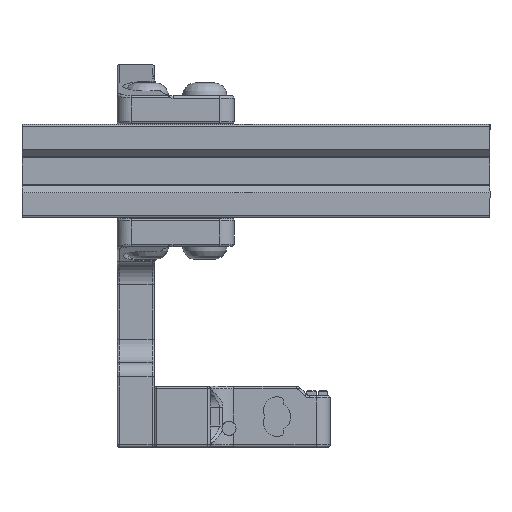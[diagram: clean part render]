
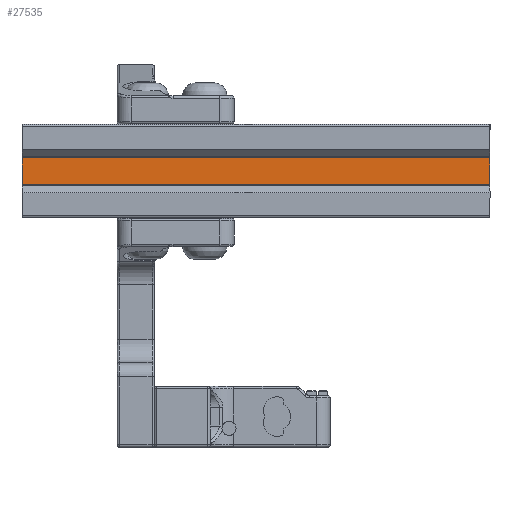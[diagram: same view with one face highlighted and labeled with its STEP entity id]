
A CAD part, front view. The second image highlights one B-rep face of the part: STEP entity #27535.
In plain terms, the highlighted planar face has unit normal (0, -1, 0).
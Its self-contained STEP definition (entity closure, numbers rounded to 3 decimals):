
#2522=PLANE('',#30477);
#4208=LINE('',#104933,#6015);
#4328=LINE('',#105184,#6135);
#4329=LINE('',#105187,#6136);
#4330=LINE('',#105188,#6137);
#6015=VECTOR('',#37172,10.);
#6135=VECTOR('',#37410,10.);
#6136=VECTOR('',#37413,10.);
#6137=VECTOR('',#37414,10.);
#8506=FACE_OUTER_BOUND('',#10220,.T.);
#10220=EDGE_LOOP('',(#25797,#25798,#25799,#25800));
#13622=VERTEX_POINT('',#104930);
#13623=VERTEX_POINT('',#104932);
#13695=VERTEX_POINT('',#105182);
#13696=VERTEX_POINT('',#105186);
#17622=EDGE_CURVE('',#13622,#13623,#4208,.T.);
#17748=EDGE_CURVE('',#13622,#13695,#4328,.T.);
#17749=EDGE_CURVE('',#13696,#13695,#4329,.F.);
#17750=EDGE_CURVE('',#13623,#13696,#4330,.T.);
#25797=ORIENTED_EDGE('',*,*,#17622,.F.);
#25798=ORIENTED_EDGE('',*,*,#17748,.T.);
#25799=ORIENTED_EDGE('',*,*,#17749,.F.);
#25800=ORIENTED_EDGE('',*,*,#17750,.F.);
#27535=ADVANCED_FACE('',(#8506),#2522,.T.);
#30477=AXIS2_PLACEMENT_3D('',#105185,#37411,#37412);
#37172=DIRECTION('',(0.,0.,1.));
#37410=DIRECTION('',(1.,0.,0.));
#37411=DIRECTION('center_axis',(0.,-1.,0.));
#37412=DIRECTION('ref_axis',(0.,0.,-1.));
#37413=DIRECTION('',(0.,0.,1.));
#37414=DIRECTION('',(1.,0.,0.));
#104930=CARTESIAN_POINT('',(-107.175,-113.923,-93.239));
#104932=CARTESIAN_POINT('',(-107.175,-113.923,-87.549));
#104933=CARTESIAN_POINT('',(-107.175,-113.923,-88.972));
#105182=CARTESIAN_POINT('',(-7.175,-113.923,-93.239));
#105184=CARTESIAN_POINT('',(-157.175,-113.923,-93.239));
#105185=CARTESIAN_POINT('Origin',(-157.175,-113.923,-87.549));
#105186=CARTESIAN_POINT('',(-7.175,-113.923,-87.549));
#105187=CARTESIAN_POINT('',(-7.175,-113.923,-88.972));
#105188=CARTESIAN_POINT('',(-157.175,-113.923,-87.549));
